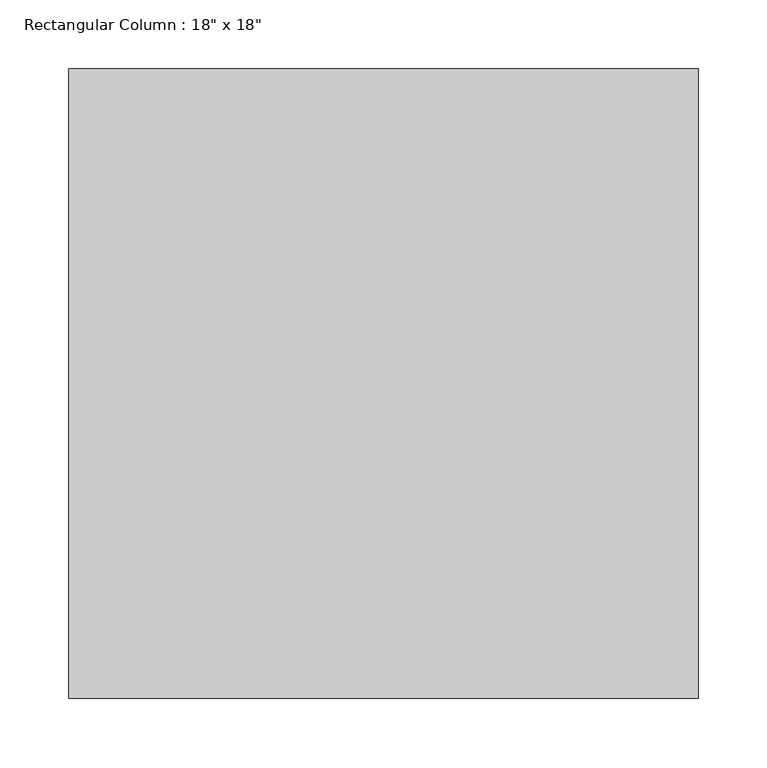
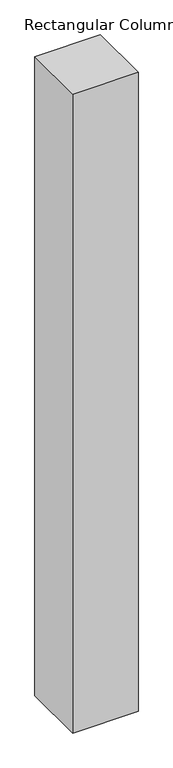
"""IFC4 building model written with IfcOpenShell, lengths in millimetres: column geometry."""

from ifc_helpers import new_model, si_unit, frame, origin, place, context, project, spatial, polyline, outline, extrude, source, transform, mapped, element, save


def column_2b57f2af(model_context):
    return source(origin(), model_context, "Body", "SweptSolid", [
        extrude(outline(polyline([(228.6, 228.6), (228.6, -228.6), (-228.6, -228.6), (-228.6, 228.6), (228.6, 228.6)])), frame((0.0, 0.0, 10210.8), z_axis=(0.0, 0.0, 1.0), x_axis=(1.0, 0.0, 0.0)), (0.0, 0.0, 1.0), 4724.4),
    ])


if __name__ == "__main__":
    model = new_model("IFC4")
    model_context = context("Model", 3, world=origin())
    ifc_project = project(units=[si_unit("LENGTHUNIT", "METRE", prefix="MILLI")], contexts=[model_context])
    site = spatial("IfcSite", under=ifc_project)
    building = spatial("IfcBuilding", under=site)
    placement = place(None, origin())
    column_shape = column_2b57f2af(model_context)
    element("IfcColumn", 1, ObjectType="Rectangular Column : 18\" x 18\"", at=placement, inside=building, context=model_context, shape_type="MappedRepresentation", body=[
        mapped(column_shape, transform((0.0, 0.0, 0.0), x_axis=(1.0, 0.0, 0.0), y_axis=(0.0, 1.0, 0.0), z_axis=(0.0, 0.0, 1.0))),
    ])
    save(model, "model.ifc")
